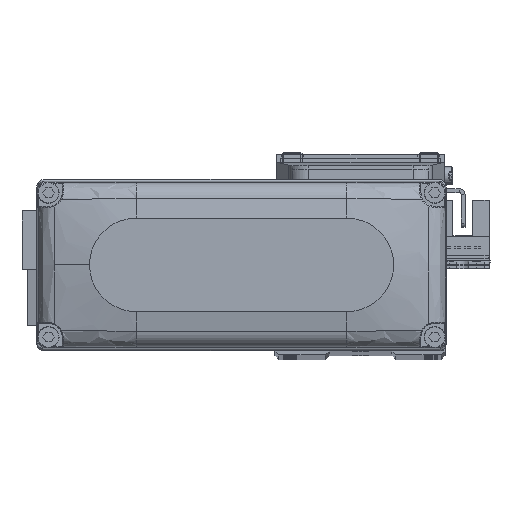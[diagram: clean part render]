
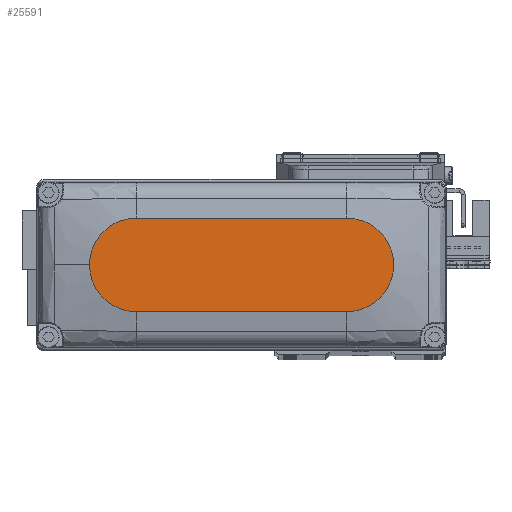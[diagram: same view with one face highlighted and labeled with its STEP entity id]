
A CAD part, top view. The second image highlights one B-rep face of the part: STEP entity #25591.
In plain terms, the highlighted planar face has unit normal (0, 0, 1).
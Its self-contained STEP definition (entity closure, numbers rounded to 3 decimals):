
#47 = DIRECTION ( 'NONE',  ( 1., 0., 0. ) ) ;
#228 = DIRECTION ( 'NONE',  ( -1., 0., 0. ) ) ;
#1420 = ORIENTED_EDGE ( 'NONE', *, *, #14335, .T. ) ;
#2965 = CARTESIAN_POINT ( 'NONE',  ( 27., 0., 25. ) ) ;
#3163 = DIRECTION ( 'NONE',  ( 0., 0., 1. ) ) ;
#3245 = VERTEX_POINT ( 'NONE', #27077 ) ;
#5237 = CIRCLE ( 'NONE', #27878, 12. ) ;
#6121 = DIRECTION ( 'NONE',  ( 1., 0., 0. ) ) ;
#7685 = CIRCLE ( 'NONE', #30295, 12. ) ;
#9207 = CARTESIAN_POINT ( 'NONE',  ( 0., 0., 25. ) ) ;
#9419 = VECTOR ( 'NONE', #47, 1000. ) ;
#11652 = VERTEX_POINT ( 'NONE', #16728 ) ;
#11693 = AXIS2_PLACEMENT_3D ( 'NONE', #9207, #21542, #33885 ) ;
#12182 = ORIENTED_EDGE ( 'NONE', *, *, #17902, .T. ) ;
#12319 = DIRECTION ( 'NONE',  ( 1., 0., 0. ) ) ;
#12660 = CARTESIAN_POINT ( 'NONE',  ( 27., 12., 25. ) ) ;
#13119 = CIRCLE ( 'NONE', #35731, 12. ) ;
#14161 = CARTESIAN_POINT ( 'NONE',  ( -27., 12., 25. ) ) ;
#14335 = EDGE_CURVE ( 'NONE', #11652, #34183, #7685, .T. ) ;
#15302 = DIRECTION ( 'NONE',  ( 0., 0., 1. ) ) ;
#15412 = LINE ( 'NONE', #27754, #9419 ) ;
#15590 = LINE ( 'NONE', #27928, #16319 ) ;
#15614 = ORIENTED_EDGE ( 'NONE', *, *, #20535, .T. ) ;
#16319 = VECTOR ( 'NONE', #228, 1000. ) ;
#16728 = CARTESIAN_POINT ( 'NONE',  ( 27., -12., 25. ) ) ;
#17902 = EDGE_CURVE ( 'NONE', #33135, #36918, #15590, .T. ) ;
#18289 = EDGE_CURVE ( 'NONE', #34183, #33135, #13119, .T. ) ;
#20535 = EDGE_CURVE ( 'NONE', #3245, #11652, #15412, .T. ) ;
#21479 = CARTESIAN_POINT ( 'NONE',  ( -27., 0., 25. ) ) ;
#21542 = DIRECTION ( 'NONE',  ( 0., 0., 1. ) ) ;
#22389 = ORIENTED_EDGE ( 'NONE', *, *, #18289, .T. ) ;
#23089 = EDGE_LOOP ( 'NONE', ( #12182, #30769, #15614, #1420, #22389 ) ) ;
#24579 = FACE_OUTER_BOUND ( 'NONE', #23089, .T. ) ;
#25591 = ADVANCED_FACE ( 'NONE', ( #24579 ), #36924, .T. ) ;
#26039 = CARTESIAN_POINT ( 'NONE',  ( 39., 0., 25. ) ) ;
#27077 = CARTESIAN_POINT ( 'NONE',  ( -27., -12., 25. ) ) ;
#27645 = DIRECTION ( 'NONE',  ( 1., 0., 0. ) ) ;
#27701 = CARTESIAN_POINT ( 'NONE',  ( 27., 0., 25. ) ) ;
#27754 = CARTESIAN_POINT ( 'NONE',  ( -27., -12., 25. ) ) ;
#27878 = AXIS2_PLACEMENT_3D ( 'NONE', #21479, #33828, #6121 ) ;
#27928 = CARTESIAN_POINT ( 'NONE',  ( -27., 12., 25. ) ) ;
#29381 = EDGE_CURVE ( 'NONE', #36918, #3245, #5237, .T. ) ;
#30295 = AXIS2_PLACEMENT_3D ( 'NONE', #27701, #3163, #12319 ) ;
#30769 = ORIENTED_EDGE ( 'NONE', *, *, #29381, .T. ) ;
#33135 = VERTEX_POINT ( 'NONE', #12660 ) ;
#33828 = DIRECTION ( 'NONE',  ( 0., 0., 1. ) ) ;
#33885 = DIRECTION ( 'NONE',  ( 1., 0., 0. ) ) ;
#34183 = VERTEX_POINT ( 'NONE', #26039 ) ;
#35731 = AXIS2_PLACEMENT_3D ( 'NONE', #2965, #15302, #27645 ) ;
#36918 = VERTEX_POINT ( 'NONE', #14161 ) ;
#36924 = PLANE ( 'NONE',  #11693 ) ;
